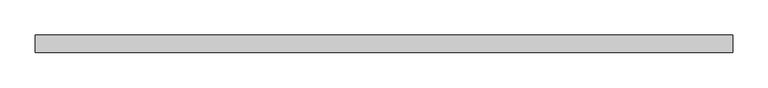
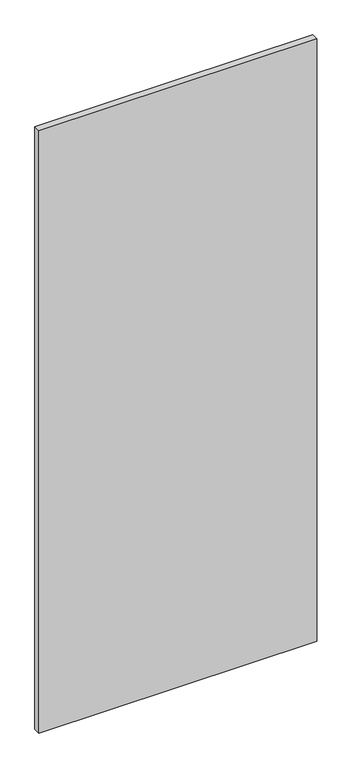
"""IFC4 building model written with IfcOpenShell, lengths in millimetres: plate geometry, 系统嵌板 : 玻璃."""

from ifc_helpers import new_model, si_unit, origin, origin_with_axes, place, context, project, spatial, polyline, outline, extrude, source, transform, mapped, element, save


def plate_c530ab51(model_context):
    return source(origin(), model_context, "Body", "SweptSolid", [
        extrude(outline(polyline([(495.0, -12.5), (-495.0, -12.5), (-495.0, 12.5), (495.0, 12.5), (495.0, -12.5)])), origin_with_axes(), (0.0, 0.0, 1.0), 2270.0),
    ])


if __name__ == "__main__":
    model = new_model("IFC4")
    model_context = context("Model", 3, world=origin())
    ifc_project = project(units=[si_unit("LENGTHUNIT", "METRE", prefix="MILLI")], contexts=[model_context])
    site = spatial("IfcSite", under=ifc_project)
    building = spatial("IfcBuilding", under=site)
    placement = place(None, origin())
    plate_shape = plate_c530ab51(model_context)
    element("IfcPlate", 1, ObjectType="系统嵌板 : 玻璃", at=placement, inside=building, context=model_context, shape_type="MappedRepresentation", body=[
        mapped(plate_shape, transform((0.0, 0.0, 0.0), x_axis=(1.0, 0.0, 0.0), y_axis=(0.0, 1.0, 0.0), z_axis=(0.0, 0.0, 1.0))),
    ])
    save(model, "model.ifc")
